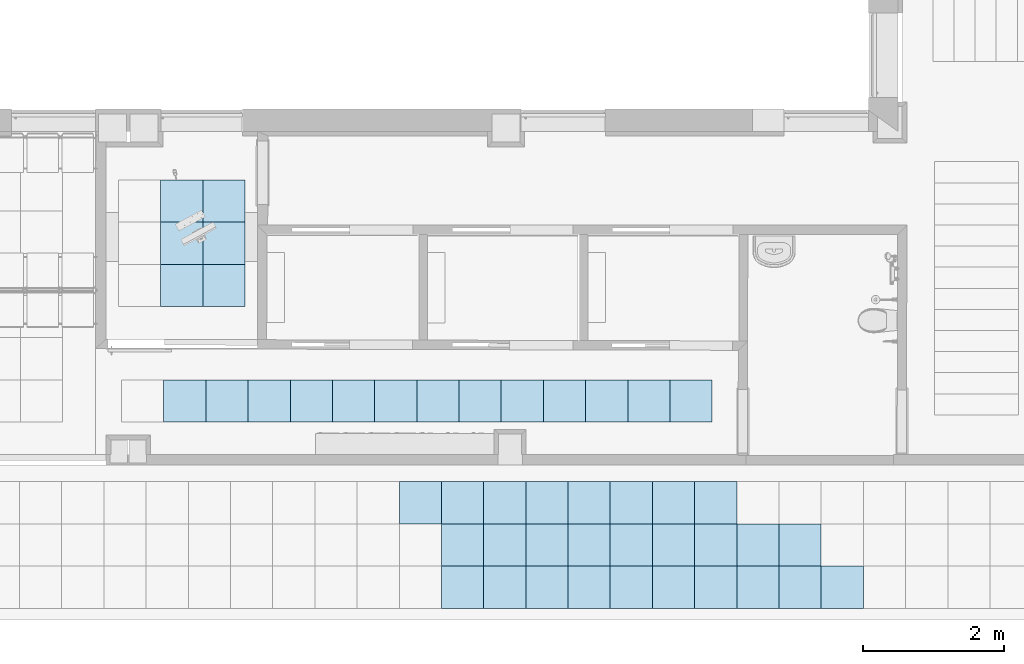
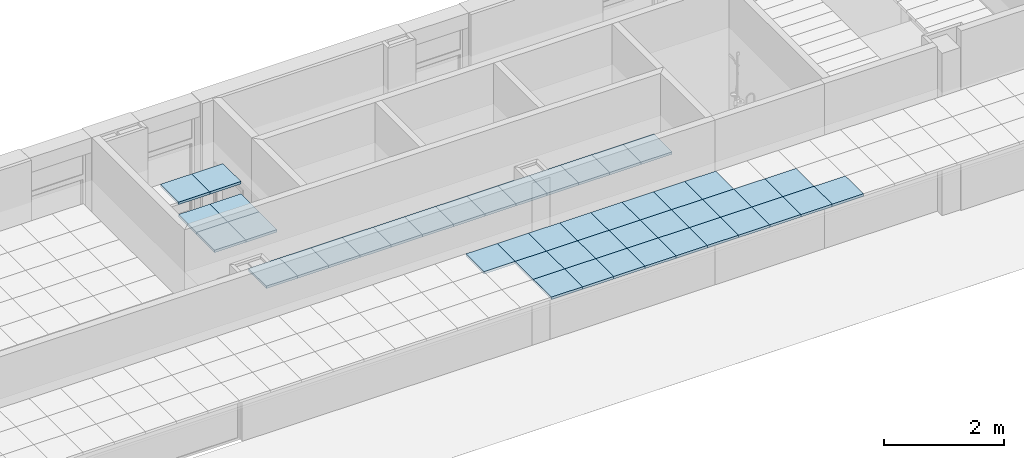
# One storey, part 16 of 68: 46 slabs.
"""IFC2X3 building model written with IfcOpenShell, lengths in millimetres."""

from ifc_helpers import new_model, entity, si_unit, converted_unit, derived_unit, money_unit, direction, frame, origin_with_axes, place, context, subcontext, project, spatial, polyline, outline, extrude, material, layer, layer_set, layer_usage, type_object, element, save


model = new_model("IFC2X3")

# Units and contexts
model_context = context("Model", 3, precision=0.01, world=origin_with_axes(), true_north=direction((0.0, 1.0)))
body_context = subcontext(model_context, "Body", "Model", "MODEL_VIEW")
ifc_project = project(units=[si_unit("LENGTHUNIT", "METRE", prefix="MILLI"), si_unit("AREAUNIT", "SQUARE_METRE"), si_unit("VOLUMEUNIT", "CUBIC_METRE"), converted_unit("PLANEANGLEUNIT", "DEGREE", entity("IfcPlaneAngleMeasure", 0.0174532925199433), si_unit("PLANEANGLEUNIT", "RADIAN"), dimensions=[0, 0, 0, 0, 0, 0, 0]), money_unit("USD"), converted_unit("TIMEUNIT", "Year", entity("IfcTimeMeasure", 31557600.0), si_unit("TIMEUNIT", "SECOND"), dimensions=[0, 0, 1, 0, 0, 0, 0]), si_unit("MASSUNIT", "GRAM", prefix="KILO"), si_unit("THERMODYNAMICTEMPERATUREUNIT", "DEGREE_CELSIUS"), si_unit("LUMINOUSINTENSITYUNIT", "LUMEN"), si_unit("ENERGYUNIT", "JOULE", prefix="MEGA"), derived_unit("THERMALCONDUCTANCEUNIT", [(si_unit("POWERUNIT", "WATT"), 1), (si_unit("LENGTHUNIT", "METRE"), -1), (si_unit("THERMODYNAMICTEMPERATUREUNIT", "KELVIN"), -1)]), derived_unit("SPECIFICHEATCAPACITYUNIT", [(si_unit("ENERGYUNIT", "JOULE"), 1), (si_unit("MASSUNIT", "GRAM", prefix="KILO"), -1), (si_unit("THERMODYNAMICTEMPERATUREUNIT", "KELVIN"), -1)]), derived_unit("MASSDENSITYUNIT", [(si_unit("MASSUNIT", "GRAM", prefix="KILO"), 1), (si_unit("VOLUMEUNIT", "CUBIC_METRE"), -1)])], contexts=[model_context])

# Site, building, storey
site_placement = place(None, origin_with_axes())
site = spatial("IfcSite", under=ifc_project, at=site_placement, Name="Sitio", CompositionType="ELEMENT")
building_placement = place(site_placement, origin_with_axes())
building = spatial("IfcBuilding", under=site, at=building_placement, Name="Construcción", CompositionType="ELEMENT")
storey_placement = place(building_placement, origin_with_axes())
storey = spatial("IfcBuildingStorey", under=building, at=storey_placement, Name="PLANTA 1ª", CompositionType="ELEMENT", Elevation=0.0)

# Slabs
ifc_material = material(Name="ARQ_CE217_Armstrong 60x60")
ifc_layer = layer(ifc_material, 50.0, ventilated="UNKNOWN")
ifc_layer_set = layer_set([ifc_layer], Name="ARQ_CE217_Armstrong 60x60 50")
ifc_layer_usage_1 = layer_usage(ifc_layer_set, "AXIS3", "NEGATIVE", 50.0)
slab_type = type_object("IfcSlabType", Name="ARQ_CE217_Armstrong 60x60 50", PredefinedType="NOTDEFINED")
slab_1_placement = place(storey_placement, frame((-12119.57597210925, -16474.05591184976, 2500.0), z_axis=(0.0, 0.0, 1.0), x_axis=(1.0, 0.0, 0.0)))
element("IfcSlab", 1, at=slab_1_placement, inside=storey, type_object=slab_type, material=ifc_layer_usage_1, Name="SLA - 026", PredefinedType="NOTDEFINED", context=body_context, shape_type="SweptSolid", body=[
    extrude(outline(polyline([(0.0, 0.0), (600.0000000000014, 0.0), (600.0000000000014, 600.0000000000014), (0.0, 600.0000000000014), (0.0, 0.0)])), frame((0.0, 0.0, -50.0), z_axis=(0.0, 0.0, 1.0), x_axis=(1.0, 0.0, 0.0)), (0.0, 0.0, 1.0), 50.0),
])
ifc_layer_usage_2 = layer_usage(ifc_layer_set, "AXIS3", "NEGATIVE", 50.0)
slab_2_placement = place(storey_placement, frame((-11519.57597210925, -16474.05591184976, 2500.0), z_axis=(0.0, 0.0, 1.0), x_axis=(1.0, 0.0, 0.0)))
element("IfcSlab", 2, at=slab_2_placement, inside=storey, type_object=slab_type, material=ifc_layer_usage_2, Name="SLA - 026", PredefinedType="NOTDEFINED", context=body_context, shape_type="SweptSolid", body=[
    extrude(outline(polyline([(0.0, 0.0), (599.9999999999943, 0.0), (599.9999999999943, 600.0000000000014), (0.0, 600.0000000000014), (0.0, 0.0)])), frame((0.0, 0.0, -50.0), z_axis=(0.0, 0.0, 1.0), x_axis=(1.0, 0.0, 0.0)), (0.0, 0.0, 1.0), 50.0),
])
ifc_layer_usage_3 = layer_usage(ifc_layer_set, "AXIS3", "NEGATIVE", 50.0)
slab_3_placement = place(storey_placement, frame((-10919.57597210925, -16474.05591184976, 2500.0), z_axis=(0.0, 0.0, 1.0), x_axis=(1.0, 0.0, 0.0)))
element("IfcSlab", 3, at=slab_3_placement, inside=storey, type_object=slab_type, material=ifc_layer_usage_3, Name="SLA - 026", PredefinedType="NOTDEFINED", context=body_context, shape_type="SweptSolid", body=[
    extrude(outline(polyline([(0.0, 0.0), (600.0000000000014, 0.0), (600.0000000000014, 600.0000000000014), (0.0, 600.0000000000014), (0.0, 0.0)])), frame((0.0, 0.0, -50.0), z_axis=(0.0, 0.0, 1.0), x_axis=(1.0, 0.0, 0.0)), (0.0, 0.0, 1.0), 50.0),
])
ifc_layer_usage_4 = layer_usage(ifc_layer_set, "AXIS3", "NEGATIVE", 50.0)
slab_4_placement = place(storey_placement, frame((-9719.575972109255, -16474.05591184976, 2500.0), z_axis=(0.0, 0.0, 1.0), x_axis=(1.0, 0.0, 0.0)))
element("IfcSlab", 4, at=slab_4_placement, inside=storey, type_object=slab_type, material=ifc_layer_usage_4, Name="SLA - 026", PredefinedType="NOTDEFINED", context=body_context, shape_type="SweptSolid", body=[
    extrude(outline(polyline([(0.0, 0.0), (600.0000000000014, 0.0), (600.0000000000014, 600.0000000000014), (0.0, 600.0000000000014), (0.0, 0.0)])), frame((0.0, 0.0, -50.0), z_axis=(0.0, 0.0, 1.0), x_axis=(1.0, 0.0, 0.0)), (0.0, 0.0, 1.0), 50.0),
])
ifc_layer_usage_5 = layer_usage(ifc_layer_set, "AXIS3", "NEGATIVE", 50.0)
slab_5_placement = place(storey_placement, frame((-10319.57597210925, -16474.05591184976, 2500.0), z_axis=(0.0, 0.0, 1.0), x_axis=(1.0, 0.0, 0.0)))
element("IfcSlab", 5, at=slab_5_placement, inside=storey, type_object=slab_type, material=ifc_layer_usage_5, Name="SLA - 026", PredefinedType="NOTDEFINED", context=body_context, shape_type="SweptSolid", body=[
    extrude(outline(polyline([(0.0, 0.0), (599.9999999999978, 0.0), (599.9999999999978, 600.0000000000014), (0.0, 600.0000000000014), (0.0, 0.0)])), frame((0.0, 0.0, -50.0), z_axis=(0.0, 0.0, 1.0), x_axis=(1.0, 0.0, 0.0)), (0.0, 0.0, 1.0), 50.0),
])
ifc_layer_usage_6 = layer_usage(ifc_layer_set, "AXIS3", "NEGATIVE", 50.0)
slab_6_placement = place(storey_placement, frame((-9119.575972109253, -16474.05591184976, 2500.0), z_axis=(0.0, 0.0, 1.0), x_axis=(1.0, 0.0, 0.0)))
element("IfcSlab", 6, at=slab_6_placement, inside=storey, type_object=slab_type, material=ifc_layer_usage_6, Name="SLA - 026", PredefinedType="NOTDEFINED", context=body_context, shape_type="SweptSolid", body=[
    extrude(outline(polyline([(0.0, 0.0), (600.0000000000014, 0.0), (600.0000000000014, 600.0000000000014), (0.0, 600.0000000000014), (0.0, 0.0)])), frame((0.0, 0.0, -50.0), z_axis=(0.0, 0.0, 1.0), x_axis=(1.0, 0.0, 0.0)), (0.0, 0.0, 1.0), 50.0),
])
ifc_layer_usage_7 = layer_usage(ifc_layer_set, "AXIS3", "NEGATIVE", 50.0)
slab_7_placement = place(storey_placement, frame((-8519.57597210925, -16474.05591184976, 2500.0), z_axis=(0.0, 0.0, 1.0), x_axis=(1.0, 0.0, 0.0)))
element("IfcSlab", 7, at=slab_7_placement, inside=storey, type_object=slab_type, material=ifc_layer_usage_7, Name="SLA - 026", PredefinedType="NOTDEFINED", context=body_context, shape_type="SweptSolid", body=[
    extrude(outline(polyline([(0.0, 0.0), (599.9999999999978, 0.0), (599.9999999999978, 600.0000000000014), (0.0, 600.0000000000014), (0.0, 0.0)])), frame((0.0, 0.0, -50.0), z_axis=(0.0, 0.0, 1.0), x_axis=(1.0, 0.0, 0.0)), (0.0, 0.0, 1.0), 50.0),
])
ifc_layer_usage_8 = layer_usage(ifc_layer_set, "AXIS3", "NEGATIVE", 50.0)
slab_8_placement = place(storey_placement, frame((-7319.575972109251, -16474.05591184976, 2500.0), z_axis=(0.0, 0.0, 1.0), x_axis=(1.0, 0.0, 0.0)))
element("IfcSlab", 8, at=slab_8_placement, inside=storey, type_object=slab_type, material=ifc_layer_usage_8, Name="SLA - 026", PredefinedType="NOTDEFINED", context=body_context, shape_type="SweptSolid", body=[
    extrude(outline(polyline([(0.0, 0.0), (600.0000000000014, 0.0), (600.0000000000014, 600.0000000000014), (0.0, 600.0000000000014), (0.0, 0.0)])), frame((0.0, 0.0, -50.0), z_axis=(0.0, 0.0, 1.0), x_axis=(1.0, 0.0, 0.0)), (0.0, 0.0, 1.0), 50.0),
])
ifc_layer_usage_9 = layer_usage(ifc_layer_set, "AXIS3", "NEGATIVE", 50.0)
slab_9_placement = place(storey_placement, frame((-6719.57597210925, -16474.05591184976, 2500.0), z_axis=(0.0, 0.0, 1.0), x_axis=(1.0, 0.0, 0.0)))
element("IfcSlab", 9, at=slab_9_placement, inside=storey, type_object=slab_type, material=ifc_layer_usage_9, Name="SLA - 026", PredefinedType="NOTDEFINED", context=body_context, shape_type="SweptSolid", body=[
    extrude(outline(polyline([(0.0, 0.0), (600.0000000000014, 0.0), (600.0000000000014, 600.0000000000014), (0.0, 600.0000000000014), (0.0, 0.0)])), frame((0.0, 0.0, -50.0), z_axis=(0.0, 0.0, 1.0), x_axis=(1.0, 0.0, 0.0)), (0.0, 0.0, 1.0), 50.0),
])
ifc_layer_usage_10 = layer_usage(ifc_layer_set, "AXIS3", "NEGATIVE", 50.0)
slab_10_placement = place(storey_placement, frame((-6119.575972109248, -16474.05591184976, 2500.0), z_axis=(0.0, 0.0, 1.0), x_axis=(1.0, 0.0, 0.0)))
element("IfcSlab", 10, at=slab_10_placement, inside=storey, type_object=slab_type, material=ifc_layer_usage_10, Name="SLA - 026", PredefinedType="NOTDEFINED", context=body_context, shape_type="SweptSolid", body=[
    extrude(outline(polyline([(0.0, 0.0), (599.9999999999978, 0.0), (599.9999999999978, 600.0000000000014), (0.0, 600.0000000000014), (0.0, 0.0)])), frame((0.0, 0.0, -50.0), z_axis=(0.0, 0.0, 1.0), x_axis=(1.0, 0.0, 0.0)), (0.0, 0.0, 1.0), 50.0),
])
ifc_layer_usage_11 = layer_usage(ifc_layer_set, "AXIS3", "NEGATIVE", 50.0)
slab_11_placement = place(storey_placement, frame((-4919.575972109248, -16474.05591184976, 2500.0), z_axis=(0.0, 0.0, 1.0), x_axis=(1.0, 0.0, 0.0)))
element("IfcSlab", 11, at=slab_11_placement, inside=storey, type_object=slab_type, material=ifc_layer_usage_11, Name="SLA - 026", PredefinedType="NOTDEFINED", context=body_context, shape_type="SweptSolid", body=[
    extrude(outline(polyline([(0.0, 0.0), (600.0000000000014, 0.0), (600.0000000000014, 600.0000000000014), (0.0, 600.0000000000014), (0.0, 0.0)])), frame((0.0, 0.0, -50.0), z_axis=(0.0, 0.0, 1.0), x_axis=(1.0, 0.0, 0.0)), (0.0, 0.0, 1.0), 50.0),
])
ifc_layer_usage_12 = layer_usage(ifc_layer_set, "AXIS3", "NEGATIVE", 50.0)
slab_12_placement = place(storey_placement, frame((-12163.6659375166, -13631.06796899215, 2500.0), z_axis=(0.0, 0.0, 1.0), x_axis=(1.0, 0.0, 0.0)))
element("IfcSlab", 12, at=slab_12_placement, inside=storey, type_object=slab_type, material=ifc_layer_usage_12, Name="SLA - 026", PredefinedType="NOTDEFINED", context=body_context, shape_type="SweptSolid", body=[
    extrude(outline(polyline([(0.0, 0.0), (600.0000000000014, 0.0), (600.0000000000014, 600.0000000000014), (0.0, 600.0000000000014), (0.0, 0.0)])), frame((0.0, 0.0, -50.0), z_axis=(0.0, 0.0, 1.0), x_axis=(1.0, 0.0, 0.0)), (0.0, 0.0, 1.0), 50.0),
])
ifc_layer_usage_13 = layer_usage(ifc_layer_set, "AXIS3", "NEGATIVE", 50.0)
slab_13_placement = place(storey_placement, frame((-5519.575972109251, -16474.05591184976, 2500.0), z_axis=(0.0, 0.0, 1.0), x_axis=(1.0, 0.0, 0.0)))
element("IfcSlab", 13, at=slab_13_placement, inside=storey, type_object=slab_type, material=ifc_layer_usage_13, Name="SLA - 026", PredefinedType="NOTDEFINED", context=body_context, shape_type="SweptSolid", body=[
    extrude(outline(polyline([(0.0, 0.0), (600.0000000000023, 0.0), (600.0000000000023, 600.0000000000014), (0.0, 600.0000000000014), (0.0, 0.0)])), frame((0.0, 0.0, -50.0), z_axis=(0.0, 0.0, 1.0), x_axis=(1.0, 0.0, 0.0)), (0.0, 0.0, 1.0), 50.0),
])
ifc_layer_usage_14 = layer_usage(ifc_layer_set, "AXIS3", "NEGATIVE", 50.0)
slab_14_placement = place(storey_placement, frame((-11563.6659375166, -13631.06796899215, 2500.0), z_axis=(0.0, 0.0, 1.0), x_axis=(1.0, 0.0, 0.0)))
element("IfcSlab", 14, at=slab_14_placement, inside=storey, type_object=slab_type, material=ifc_layer_usage_14, Name="SLA - 026", PredefinedType="NOTDEFINED", context=body_context, shape_type="SweptSolid", body=[
    extrude(outline(polyline([(0.0, 0.0), (599.9999999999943, 0.0), (599.9999999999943, 600.0000000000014), (0.0, 600.0000000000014), (0.0, 0.0)])), frame((0.0, 0.0, -50.0), z_axis=(0.0, 0.0, 1.0), x_axis=(1.0, 0.0, 0.0)), (0.0, 0.0, 1.0), 50.0),
])
ifc_layer_usage_15 = layer_usage(ifc_layer_set, "AXIS3", "NEGATIVE", 50.0)
slab_15_placement = place(storey_placement, frame((-11563.6659375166, -14231.06796899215, 2250.0), z_axis=(0.0, 0.0, 1.0), x_axis=(1.0, 0.0, 0.0)))
element("IfcSlab", 15, at=slab_15_placement, inside=storey, type_object=slab_type, material=ifc_layer_usage_15, Name="SLA - 026", PredefinedType="NOTDEFINED", context=body_context, shape_type="SweptSolid", body=[
    extrude(outline(polyline([(0.0, 0.0), (599.9999999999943, 0.0), (599.9999999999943, 600.0000000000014), (0.0, 600.0000000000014), (0.0, 0.0)])), frame((0.0, 0.0, -50.0), z_axis=(0.0, 0.0, 1.0), x_axis=(1.0, 0.0, 0.0)), (0.0, 0.0, 1.0), 50.0),
])
ifc_layer_usage_16 = layer_usage(ifc_layer_set, "AXIS3", "NEGATIVE", 50.0)
slab_16_placement = place(storey_placement, frame((-12163.6659375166, -14831.06796899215, 2250.0), z_axis=(0.0, 0.0, 1.0), x_axis=(1.0, 0.0, 0.0)))
element("IfcSlab", 16, at=slab_16_placement, inside=storey, type_object=slab_type, material=ifc_layer_usage_16, Name="SLA - 026", PredefinedType="NOTDEFINED", context=body_context, shape_type="SweptSolid", body=[
    extrude(outline(polyline([(0.0, 0.0), (600.0000000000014, 0.0), (600.0000000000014, 600.0000000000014), (0.0, 600.0000000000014), (0.0, 0.0)])), frame((0.0, 0.0, -50.0), z_axis=(0.0, 0.0, 1.0), x_axis=(1.0, 0.0, 0.0)), (0.0, 0.0, 1.0), 50.0),
])
ifc_layer_usage_17 = layer_usage(ifc_layer_set, "AXIS3", "NEGATIVE", 50.0)
slab_17_placement = place(storey_placement, frame((-11563.6659375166, -14831.06796899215, 2250.0), z_axis=(0.0, 0.0, 1.0), x_axis=(1.0, 0.0, 0.0)))
element("IfcSlab", 17, at=slab_17_placement, inside=storey, type_object=slab_type, material=ifc_layer_usage_17, Name="SLA - 026", PredefinedType="NOTDEFINED", context=body_context, shape_type="SweptSolid", body=[
    extrude(outline(polyline([(0.0, 0.0), (599.9999999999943, 0.0), (599.9999999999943, 600.0000000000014), (0.0, 600.0000000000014), (0.0, 0.0)])), frame((0.0, 0.0, -50.0), z_axis=(0.0, 0.0, 1.0), x_axis=(1.0, 0.0, 0.0)), (0.0, 0.0, 1.0), 50.0),
])
ifc_layer_usage_18 = layer_usage(ifc_layer_set, "AXIS3", "NEGATIVE", 50.0)
slab_18_placement = place(storey_placement, frame((-12163.6659375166, -14231.06796899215, 2250.0), z_axis=(0.0, 0.0, 1.0), x_axis=(1.0, 0.0, 0.0)))
element("IfcSlab", 18, at=slab_18_placement, inside=storey, type_object=slab_type, material=ifc_layer_usage_18, Name="SLA - 026", PredefinedType="NOTDEFINED", context=body_context, shape_type="SweptSolid", body=[
    extrude(outline(polyline([(0.0, 0.0), (600.0000000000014, 0.0), (600.0000000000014, 600.0000000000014), (0.0, 600.0000000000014), (0.0, 0.0)])), frame((0.0, 0.0, -50.0), z_axis=(0.0, 0.0, 1.0), x_axis=(1.0, 0.0, 0.0)), (0.0, 0.0, 1.0), 50.0),
])
ifc_layer_usage_19 = layer_usage(ifc_layer_set, "AXIS3", "NEGATIVE", 50.0)
slab_19_placement = place(storey_placement, frame((-7919.575972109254, -16474.05591184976, 2500.0), z_axis=(0.0, 0.0, 1.0), x_axis=(1.0, 0.0, 0.0)))
element("IfcSlab", 19, at=slab_19_placement, inside=storey, type_object=slab_type, material=ifc_layer_usage_19, Name="SLA - 026", PredefinedType="NOTDEFINED", context=body_context, shape_type="SweptSolid", body=[
    extrude(outline(polyline([(0.0, 0.0), (600.0000000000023, 0.0), (600.0000000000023, 600.0000000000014), (0.0, 600.0000000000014), (0.0, 0.0)])), frame((0.0, 0.0, -50.0), z_axis=(0.0, 0.0, 1.0), x_axis=(1.0, 0.0, 0.0)), (0.0, 0.0, 1.0), 50.0),
])
ifc_layer_usage_20 = layer_usage(ifc_layer_set, "AXIS3", "NEGATIVE", 50.0)
slab_20_placement = place(storey_placement, frame((-8169.70328336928, -19121.97576450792, 2500.0), z_axis=(0.0, 0.0, 1.0), x_axis=(1.0, 0.0, 0.0)))
element("IfcSlab", 20, at=slab_20_placement, inside=storey, type_object=slab_type, material=ifc_layer_usage_20, Name="SLA - 026", PredefinedType="NOTDEFINED", context=body_context, shape_type="SweptSolid", body=[
    extrude(outline(polyline([(0.0, 0.0), (600.0000000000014, 0.0), (600.0000000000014, 600.0000000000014), (0.0, 600.0000000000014), (0.0, 0.0)])), frame((0.0, 0.0, -50.0), z_axis=(0.0, 0.0, 1.0), x_axis=(1.0, 0.0, 0.0)), (0.0, 0.0, 1.0), 50.0),
])
ifc_layer_usage_21 = layer_usage(ifc_layer_set, "AXIS3", "NEGATIVE", 50.0)
slab_21_placement = place(storey_placement, frame((-8769.703283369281, -17921.97576450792, 2500.0), z_axis=(0.0, 0.0, 1.0), x_axis=(1.0, 0.0, 0.0)))
element("IfcSlab", 21, at=slab_21_placement, inside=storey, type_object=slab_type, material=ifc_layer_usage_21, Name="SLA - 026", PredefinedType="NOTDEFINED", context=body_context, shape_type="SweptSolid", body=[
    extrude(outline(polyline([(0.0, 0.0), (600.0000000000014, 0.0), (600.0000000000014, 600.0000000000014), (0.0, 600.0000000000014), (0.0, 0.0)])), frame((0.0, 0.0, -50.0), z_axis=(0.0, 0.0, 1.0), x_axis=(1.0, 0.0, 0.0)), (0.0, 0.0, 1.0), 50.0),
])
ifc_layer_usage_22 = layer_usage(ifc_layer_set, "AXIS3", "NEGATIVE", 50.0)
slab_22_placement = place(storey_placement, frame((-8169.70328336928, -18521.97576450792, 2500.0), z_axis=(0.0, 0.0, 1.0), x_axis=(1.0, 0.0, 0.0)))
element("IfcSlab", 22, at=slab_22_placement, inside=storey, type_object=slab_type, material=ifc_layer_usage_22, Name="SLA - 026", PredefinedType="NOTDEFINED", context=body_context, shape_type="SweptSolid", body=[
    extrude(outline(polyline([(0.0, 0.0), (600.0000000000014, 0.0), (600.0000000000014, 600.0000000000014), (0.0, 600.0000000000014), (0.0, 0.0)])), frame((0.0, 0.0, -50.0), z_axis=(0.0, 0.0, 1.0), x_axis=(1.0, 0.0, 0.0)), (0.0, 0.0, 1.0), 50.0),
])
ifc_layer_usage_23 = layer_usage(ifc_layer_set, "AXIS3", "NEGATIVE", 50.0)
slab_23_placement = place(storey_placement, frame((-8169.70328336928, -17921.97576450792, 2500.0), z_axis=(0.0, 0.0, 1.0), x_axis=(1.0, 0.0, 0.0)))
element("IfcSlab", 23, at=slab_23_placement, inside=storey, type_object=slab_type, material=ifc_layer_usage_23, Name="SLA - 026", PredefinedType="NOTDEFINED", context=body_context, shape_type="SweptSolid", body=[
    extrude(outline(polyline([(0.0, 0.0), (600.0000000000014, 0.0), (600.0000000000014, 600.0000000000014), (0.0, 600.0000000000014), (0.0, 0.0)])), frame((0.0, 0.0, -50.0), z_axis=(0.0, 0.0, 1.0), x_axis=(1.0, 0.0, 0.0)), (0.0, 0.0, 1.0), 50.0),
])
ifc_layer_usage_24 = layer_usage(ifc_layer_set, "AXIS3", "NEGATIVE", 50.0)
slab_24_placement = place(storey_placement, frame((-7569.703283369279, -19121.97576450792, 2500.0), z_axis=(0.0, 0.0, 1.0), x_axis=(1.0, 0.0, 0.0)))
element("IfcSlab", 24, at=slab_24_placement, inside=storey, type_object=slab_type, material=ifc_layer_usage_24, Name="SLA - 026", PredefinedType="NOTDEFINED", context=body_context, shape_type="SweptSolid", body=[
    extrude(outline(polyline([(0.0, 0.0), (600.0000000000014, 0.0), (600.0000000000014, 600.0000000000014), (0.0, 600.0000000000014), (0.0, 0.0)])), frame((0.0, 0.0, -50.0), z_axis=(0.0, 0.0, 1.0), x_axis=(1.0, 0.0, 0.0)), (0.0, 0.0, 1.0), 50.0),
])
ifc_layer_usage_25 = layer_usage(ifc_layer_set, "AXIS3", "NEGATIVE", 50.0)
slab_25_placement = place(storey_placement, frame((-7569.703283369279, -18521.97576450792, 2500.0), z_axis=(0.0, 0.0, 1.0), x_axis=(1.0, 0.0, 0.0)))
element("IfcSlab", 25, at=slab_25_placement, inside=storey, type_object=slab_type, material=ifc_layer_usage_25, Name="SLA - 026", PredefinedType="NOTDEFINED", context=body_context, shape_type="SweptSolid", body=[
    extrude(outline(polyline([(0.0, 0.0), (600.0000000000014, 0.0), (600.0000000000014, 600.0000000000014), (0.0, 600.0000000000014), (0.0, 0.0)])), frame((0.0, 0.0, -50.0), z_axis=(0.0, 0.0, 1.0), x_axis=(1.0, 0.0, 0.0)), (0.0, 0.0, 1.0), 50.0),
])
ifc_layer_usage_26 = layer_usage(ifc_layer_set, "AXIS3", "NEGATIVE", 50.0)
slab_26_placement = place(storey_placement, frame((-7569.703283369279, -17921.97576450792, 2500.0), z_axis=(0.0, 0.0, 1.0), x_axis=(1.0, 0.0, 0.0)))
element("IfcSlab", 26, at=slab_26_placement, inside=storey, type_object=slab_type, material=ifc_layer_usage_26, Name="SLA - 026", PredefinedType="NOTDEFINED", context=body_context, shape_type="SweptSolid", body=[
    extrude(outline(polyline([(0.0, 0.0), (600.0000000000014, 0.0), (600.0000000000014, 600.0000000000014), (0.0, 600.0000000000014), (0.0, 0.0)])), frame((0.0, 0.0, -50.0), z_axis=(0.0, 0.0, 1.0), x_axis=(1.0, 0.0, 0.0)), (0.0, 0.0, 1.0), 50.0),
])
ifc_layer_usage_27 = layer_usage(ifc_layer_set, "AXIS3", "NEGATIVE", 50.0)
slab_27_placement = place(storey_placement, frame((-6969.703283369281, -19121.97576450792, 2500.0), z_axis=(0.0, 0.0, 1.0), x_axis=(1.0, 0.0, 0.0)))
element("IfcSlab", 27, at=slab_27_placement, inside=storey, type_object=slab_type, material=ifc_layer_usage_27, Name="SLA - 026", PredefinedType="NOTDEFINED", context=body_context, shape_type="SweptSolid", body=[
    extrude(outline(polyline([(0.0, 0.0), (600.0000000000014, 0.0), (600.0000000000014, 600.0000000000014), (0.0, 600.0000000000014), (0.0, 0.0)])), frame((0.0, 0.0, -50.0), z_axis=(0.0, 0.0, 1.0), x_axis=(1.0, 0.0, 0.0)), (0.0, 0.0, 1.0), 50.0),
])
ifc_layer_usage_28 = layer_usage(ifc_layer_set, "AXIS3", "NEGATIVE", 50.0)
slab_28_placement = place(storey_placement, frame((-6969.703283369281, -18521.97576450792, 2500.0), z_axis=(0.0, 0.0, 1.0), x_axis=(1.0, 0.0, 0.0)))
element("IfcSlab", 28, at=slab_28_placement, inside=storey, type_object=slab_type, material=ifc_layer_usage_28, Name="SLA - 026", PredefinedType="NOTDEFINED", context=body_context, shape_type="SweptSolid", body=[
    extrude(outline(polyline([(0.0, 0.0), (600.0000000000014, 0.0), (600.0000000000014, 600.0000000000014), (0.0, 600.0000000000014), (0.0, 0.0)])), frame((0.0, 0.0, -50.0), z_axis=(0.0, 0.0, 1.0), x_axis=(1.0, 0.0, 0.0)), (0.0, 0.0, 1.0), 50.0),
])
ifc_layer_usage_29 = layer_usage(ifc_layer_set, "AXIS3", "NEGATIVE", 50.0)
slab_29_placement = place(storey_placement, frame((-6969.703283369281, -17921.97576450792, 2500.0), z_axis=(0.0, 0.0, 1.0), x_axis=(1.0, 0.0, 0.0)))
element("IfcSlab", 29, at=slab_29_placement, inside=storey, type_object=slab_type, material=ifc_layer_usage_29, Name="SLA - 026", PredefinedType="NOTDEFINED", context=body_context, shape_type="SweptSolid", body=[
    extrude(outline(polyline([(0.0, 0.0), (600.0000000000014, 0.0), (600.0000000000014, 600.0000000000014), (0.0, 600.0000000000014), (0.0, 0.0)])), frame((0.0, 0.0, -50.0), z_axis=(0.0, 0.0, 1.0), x_axis=(1.0, 0.0, 0.0)), (0.0, 0.0, 1.0), 50.0),
])
ifc_layer_usage_30 = layer_usage(ifc_layer_set, "AXIS3", "NEGATIVE", 50.0)
slab_30_placement = place(storey_placement, frame((-6369.703283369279, -19121.97576450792, 2500.0), z_axis=(0.0, 0.0, 1.0), x_axis=(1.0, 0.0, 0.0)))
element("IfcSlab", 30, at=slab_30_placement, inside=storey, type_object=slab_type, material=ifc_layer_usage_30, Name="SLA - 026", PredefinedType="NOTDEFINED", context=body_context, shape_type="SweptSolid", body=[
    extrude(outline(polyline([(0.0, 0.0), (600.0000000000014, 0.0), (600.0000000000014, 600.0000000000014), (0.0, 600.0000000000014), (0.0, 0.0)])), frame((0.0, 0.0, -50.0), z_axis=(0.0, 0.0, 1.0), x_axis=(1.0, 0.0, 0.0)), (0.0, 0.0, 1.0), 50.0),
])
ifc_layer_usage_31 = layer_usage(ifc_layer_set, "AXIS3", "NEGATIVE", 50.0)
slab_31_placement = place(storey_placement, frame((-6369.703283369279, -18521.97576450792, 2500.0), z_axis=(0.0, 0.0, 1.0), x_axis=(1.0, 0.0, 0.0)))
element("IfcSlab", 31, at=slab_31_placement, inside=storey, type_object=slab_type, material=ifc_layer_usage_31, Name="SLA - 026", PredefinedType="NOTDEFINED", context=body_context, shape_type="SweptSolid", body=[
    extrude(outline(polyline([(0.0, 0.0), (600.0000000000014, 0.0), (600.0000000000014, 600.0000000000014), (0.0, 600.0000000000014), (0.0, 0.0)])), frame((0.0, 0.0, -50.0), z_axis=(0.0, 0.0, 1.0), x_axis=(1.0, 0.0, 0.0)), (0.0, 0.0, 1.0), 50.0),
])
ifc_layer_usage_32 = layer_usage(ifc_layer_set, "AXIS3", "NEGATIVE", 50.0)
slab_32_placement = place(storey_placement, frame((-6369.703283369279, -17921.97576450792, 2500.0), z_axis=(0.0, 0.0, 1.0), x_axis=(1.0, 0.0, 0.0)))
element("IfcSlab", 32, at=slab_32_placement, inside=storey, type_object=slab_type, material=ifc_layer_usage_32, Name="SLA - 026", PredefinedType="NOTDEFINED", context=body_context, shape_type="SweptSolid", body=[
    extrude(outline(polyline([(0.0, 0.0), (600.0000000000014, 0.0), (600.0000000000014, 600.0000000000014), (0.0, 600.0000000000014), (0.0, 0.0)])), frame((0.0, 0.0, -50.0), z_axis=(0.0, 0.0, 1.0), x_axis=(1.0, 0.0, 0.0)), (0.0, 0.0, 1.0), 50.0),
])
ifc_layer_usage_33 = layer_usage(ifc_layer_set, "AXIS3", "NEGATIVE", 50.0)
slab_33_placement = place(storey_placement, frame((-5769.703283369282, -18521.97576450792, 2500.0), z_axis=(0.0, 0.0, 1.0), x_axis=(1.0, 0.0, 0.0)))
element("IfcSlab", 33, at=slab_33_placement, inside=storey, type_object=slab_type, material=ifc_layer_usage_33, Name="SLA - 026", PredefinedType="NOTDEFINED", context=body_context, shape_type="SweptSolid", body=[
    extrude(outline(polyline([(0.0, 0.0), (600.0000000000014, 0.0), (600.0000000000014, 600.0000000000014), (0.0, 600.0000000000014), (0.0, 0.0)])), frame((0.0, 0.0, -50.0), z_axis=(0.0, 0.0, 1.0), x_axis=(1.0, 0.0, 0.0)), (0.0, 0.0, 1.0), 50.0),
])
ifc_layer_usage_34 = layer_usage(ifc_layer_set, "AXIS3", "NEGATIVE", 50.0)
slab_34_placement = place(storey_placement, frame((-5769.703283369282, -19121.97576450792, 2500.0), z_axis=(0.0, 0.0, 1.0), x_axis=(1.0, 0.0, 0.0)))
element("IfcSlab", 34, at=slab_34_placement, inside=storey, type_object=slab_type, material=ifc_layer_usage_34, Name="SLA - 026", PredefinedType="NOTDEFINED", context=body_context, shape_type="SweptSolid", body=[
    extrude(outline(polyline([(0.0, 0.0), (600.0000000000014, 0.0), (600.0000000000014, 600.0000000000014), (0.0, 600.0000000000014), (0.0, 0.0)])), frame((0.0, 0.0, -50.0), z_axis=(0.0, 0.0, 1.0), x_axis=(1.0, 0.0, 0.0)), (0.0, 0.0, 1.0), 50.0),
])
ifc_layer_usage_35 = layer_usage(ifc_layer_set, "AXIS3", "NEGATIVE", 50.0)
slab_35_placement = place(storey_placement, frame((-5769.703283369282, -17921.97576450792, 2500.0), z_axis=(0.0, 0.0, 1.0), x_axis=(1.0, 0.0, 0.0)))
element("IfcSlab", 35, at=slab_35_placement, inside=storey, type_object=slab_type, material=ifc_layer_usage_35, Name="SLA - 026", PredefinedType="NOTDEFINED", context=body_context, shape_type="SweptSolid", body=[
    extrude(outline(polyline([(0.0, 0.0), (600.0000000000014, 0.0), (600.0000000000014, 600.0000000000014), (0.0, 600.0000000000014), (0.0, 0.0)])), frame((0.0, 0.0, -50.0), z_axis=(0.0, 0.0, 1.0), x_axis=(1.0, 0.0, 0.0)), (0.0, 0.0, 1.0), 50.0),
])
ifc_layer_usage_36 = layer_usage(ifc_layer_set, "AXIS3", "NEGATIVE", 50.0)
slab_36_placement = place(storey_placement, frame((-5169.70328336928, -19121.97576450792, 2500.0), z_axis=(0.0, 0.0, 1.0), x_axis=(1.0, 0.0, 0.0)))
element("IfcSlab", 36, at=slab_36_placement, inside=storey, type_object=slab_type, material=ifc_layer_usage_36, Name="SLA - 026", PredefinedType="NOTDEFINED", context=body_context, shape_type="SweptSolid", body=[
    extrude(outline(polyline([(0.0, 0.0), (600.0000000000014, 0.0), (600.0000000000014, 600.0000000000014), (0.0, 600.0000000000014), (0.0, 0.0)])), frame((0.0, 0.0, -50.0), z_axis=(0.0, 0.0, 1.0), x_axis=(1.0, 0.0, 0.0)), (0.0, 0.0, 1.0), 50.0),
])
ifc_layer_usage_37 = layer_usage(ifc_layer_set, "AXIS3", "NEGATIVE", 50.0)
slab_37_placement = place(storey_placement, frame((-5169.70328336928, -18521.97576450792, 2500.0), z_axis=(0.0, 0.0, 1.0), x_axis=(1.0, 0.0, 0.0)))
element("IfcSlab", 37, at=slab_37_placement, inside=storey, type_object=slab_type, material=ifc_layer_usage_37, Name="SLA - 026", PredefinedType="NOTDEFINED", context=body_context, shape_type="SweptSolid", body=[
    extrude(outline(polyline([(0.0, 0.0), (600.0000000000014, 0.0), (600.0000000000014, 600.0000000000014), (0.0, 600.0000000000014), (0.0, 0.0)])), frame((0.0, 0.0, -50.0), z_axis=(0.0, 0.0, 1.0), x_axis=(1.0, 0.0, 0.0)), (0.0, 0.0, 1.0), 50.0),
])
ifc_layer_usage_38 = layer_usage(ifc_layer_set, "AXIS3", "NEGATIVE", 50.0)
slab_38_placement = place(storey_placement, frame((-5169.70328336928, -17921.97576450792, 2500.0), z_axis=(0.0, 0.0, 1.0), x_axis=(1.0, 0.0, 0.0)))
element("IfcSlab", 38, at=slab_38_placement, inside=storey, type_object=slab_type, material=ifc_layer_usage_38, Name="SLA - 026", PredefinedType="NOTDEFINED", context=body_context, shape_type="SweptSolid", body=[
    extrude(outline(polyline([(0.0, 0.0), (600.0000000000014, 0.0), (600.0000000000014, 600.0000000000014), (0.0, 600.0000000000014), (0.0, 0.0)])), frame((0.0, 0.0, -50.0), z_axis=(0.0, 0.0, 1.0), x_axis=(1.0, 0.0, 0.0)), (0.0, 0.0, 1.0), 50.0),
])
ifc_layer_usage_39 = layer_usage(ifc_layer_set, "AXIS3", "NEGATIVE", 50.0)
slab_39_placement = place(storey_placement, frame((-4569.703283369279, -19121.97576450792, 2500.0), z_axis=(0.0, 0.0, 1.0), x_axis=(1.0, 0.0, 0.0)))
element("IfcSlab", 39, at=slab_39_placement, inside=storey, type_object=slab_type, material=ifc_layer_usage_39, Name="SLA - 026", PredefinedType="NOTDEFINED", context=body_context, shape_type="SweptSolid", body=[
    extrude(outline(polyline([(0.0, 0.0), (600.0000000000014, 0.0), (600.0000000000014, 600.0000000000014), (0.0, 600.0000000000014), (0.0, 0.0)])), frame((0.0, 0.0, -50.0), z_axis=(0.0, 0.0, 1.0), x_axis=(1.0, 0.0, 0.0)), (0.0, 0.0, 1.0), 50.0),
])
ifc_layer_usage_40 = layer_usage(ifc_layer_set, "AXIS3", "NEGATIVE", 50.0)
slab_40_placement = place(storey_placement, frame((-4569.703283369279, -18521.97576450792, 2500.0), z_axis=(0.0, 0.0, 1.0), x_axis=(1.0, 0.0, 0.0)))
element("IfcSlab", 40, at=slab_40_placement, inside=storey, type_object=slab_type, material=ifc_layer_usage_40, Name="SLA - 026", PredefinedType="NOTDEFINED", context=body_context, shape_type="SweptSolid", body=[
    extrude(outline(polyline([(0.0, 0.0), (600.0000000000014, 0.0), (600.0000000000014, 600.0000000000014), (0.0, 600.0000000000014), (0.0, 0.0)])), frame((0.0, 0.0, -50.0), z_axis=(0.0, 0.0, 1.0), x_axis=(1.0, 0.0, 0.0)), (0.0, 0.0, 1.0), 50.0),
])
ifc_layer_usage_41 = layer_usage(ifc_layer_set, "AXIS3", "NEGATIVE", 50.0)
slab_41_placement = place(storey_placement, frame((-4569.703283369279, -17921.97576450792, 2500.0), z_axis=(0.0, 0.0, 1.0), x_axis=(1.0, 0.0, 0.0)))
element("IfcSlab", 41, at=slab_41_placement, inside=storey, type_object=slab_type, material=ifc_layer_usage_41, Name="SLA - 026", PredefinedType="NOTDEFINED", context=body_context, shape_type="SweptSolid", body=[
    extrude(outline(polyline([(0.0, 0.0), (600.0000000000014, 0.0), (600.0000000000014, 600.0000000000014), (0.0, 600.0000000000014), (0.0, 0.0)])), frame((0.0, 0.0, -50.0), z_axis=(0.0, 0.0, 1.0), x_axis=(1.0, 0.0, 0.0)), (0.0, 0.0, 1.0), 50.0),
])
ifc_layer_usage_42 = layer_usage(ifc_layer_set, "AXIS3", "NEGATIVE", 50.0)
slab_42_placement = place(storey_placement, frame((-3969.703283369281, -19121.97576450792, 2500.0), z_axis=(0.0, 0.0, 1.0), x_axis=(1.0, 0.0, 0.0)))
element("IfcSlab", 42, at=slab_42_placement, inside=storey, type_object=slab_type, material=ifc_layer_usage_42, Name="SLA - 026", PredefinedType="NOTDEFINED", context=body_context, shape_type="SweptSolid", body=[
    extrude(outline(polyline([(0.0, 0.0), (600.0000000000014, 0.0), (600.0000000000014, 600.0000000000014), (0.0, 600.0000000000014), (0.0, 0.0)])), frame((0.0, 0.0, -50.0), z_axis=(0.0, 0.0, 1.0), x_axis=(1.0, 0.0, 0.0)), (0.0, 0.0, 1.0), 50.0),
])
ifc_layer_usage_43 = layer_usage(ifc_layer_set, "AXIS3", "NEGATIVE", 50.0)
slab_43_placement = place(storey_placement, frame((-3969.703283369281, -18521.97576450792, 2500.0), z_axis=(0.0, 0.0, 1.0), x_axis=(1.0, 0.0, 0.0)))
element("IfcSlab", 43, at=slab_43_placement, inside=storey, type_object=slab_type, material=ifc_layer_usage_43, Name="SLA - 026", PredefinedType="NOTDEFINED", context=body_context, shape_type="SweptSolid", body=[
    extrude(outline(polyline([(0.0, 0.0), (600.0000000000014, 0.0), (600.0000000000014, 600.0000000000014), (0.0, 600.0000000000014), (0.0, 0.0)])), frame((0.0, 0.0, -50.0), z_axis=(0.0, 0.0, 1.0), x_axis=(1.0, 0.0, 0.0)), (0.0, 0.0, 1.0), 50.0),
])
ifc_layer_usage_44 = layer_usage(ifc_layer_set, "AXIS3", "NEGATIVE", 50.0)
slab_44_placement = place(storey_placement, frame((-3369.70328336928, -19121.97576450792, 2500.0), z_axis=(0.0, 0.0, 1.0), x_axis=(1.0, 0.0, 0.0)))
element("IfcSlab", 44, at=slab_44_placement, inside=storey, type_object=slab_type, material=ifc_layer_usage_44, Name="SLA - 026", PredefinedType="NOTDEFINED", context=body_context, shape_type="SweptSolid", body=[
    extrude(outline(polyline([(0.0, 0.0), (600.0000000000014, 0.0), (600.0000000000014, 600.0000000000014), (0.0, 600.0000000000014), (0.0, 0.0)])), frame((0.0, 0.0, -50.0), z_axis=(0.0, 0.0, 1.0), x_axis=(1.0, 0.0, 0.0)), (0.0, 0.0, 1.0), 50.0),
])
ifc_layer_usage_45 = layer_usage(ifc_layer_set, "AXIS3", "NEGATIVE", 50.0)
slab_45_placement = place(storey_placement, frame((-3369.70328336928, -18521.97576450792, 2500.0), z_axis=(0.0, 0.0, 1.0), x_axis=(1.0, 0.0, 0.0)))
element("IfcSlab", 45, at=slab_45_placement, inside=storey, type_object=slab_type, material=ifc_layer_usage_45, Name="SLA - 026", PredefinedType="NOTDEFINED", context=body_context, shape_type="SweptSolid", body=[
    extrude(outline(polyline([(0.0, 0.0), (600.0000000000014, 0.0), (600.0000000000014, 600.0000000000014), (0.0, 600.0000000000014), (0.0, 0.0)])), frame((0.0, 0.0, -50.0), z_axis=(0.0, 0.0, 1.0), x_axis=(1.0, 0.0, 0.0)), (0.0, 0.0, 1.0), 50.0),
])
ifc_layer_usage_46 = layer_usage(ifc_layer_set, "AXIS3", "NEGATIVE", 50.0)
slab_46_placement = place(storey_placement, frame((-2769.703283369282, -19121.97576450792, 2500.0), z_axis=(0.0, 0.0, 1.0), x_axis=(1.0, 0.0, 0.0)))
element("IfcSlab", 46, at=slab_46_placement, inside=storey, type_object=slab_type, material=ifc_layer_usage_46, Name="SLA - 026", PredefinedType="NOTDEFINED", context=body_context, shape_type="SweptSolid", body=[
    extrude(outline(polyline([(0.0, 0.0), (600.0000000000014, 0.0), (600.0000000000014, 600.0000000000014), (0.0, 600.0000000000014), (0.0, 0.0)])), frame((0.0, 0.0, -50.0), z_axis=(0.0, 0.0, 1.0), x_axis=(1.0, 0.0, 0.0)), (0.0, 0.0, 1.0), 50.0),
])

save(model, "model.ifc")
